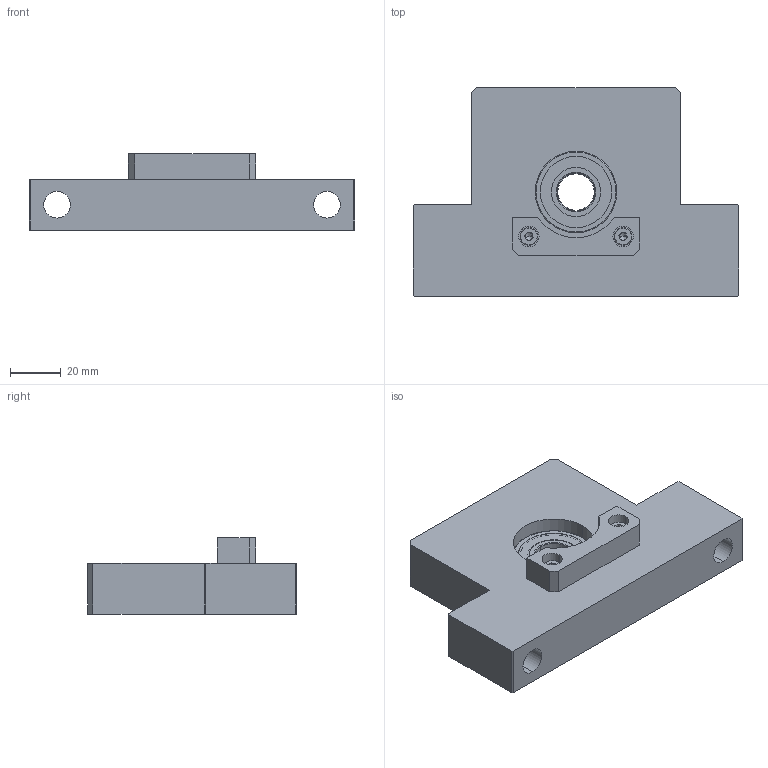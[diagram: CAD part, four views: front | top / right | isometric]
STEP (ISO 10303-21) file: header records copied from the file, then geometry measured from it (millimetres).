
FILE_DESCRIPTION (( 'STEP AP214' ), '1' );
FILE_NAME ('F-SBU-15.80-D.STEP', '2023-04-10T09:19:59', ( '' ), ( '' ), 'SwSTEP 2.0', 'SolidWorks 2021', '' );
FILE_SCHEMA (( 'AUTOMOTIVE_DESIGN' ));
Length unit declared in the file: millimetre
Products named in the file (11): 6002ZZ Inner ring; F-SBU-15.80-D BODY; 6002ZZ; 6002ZZ Ball; DAMPER; 4-10; 6002ZZ Shield1; F-SBU-15.80-D; 6002ZZ Shield2; 6002ZZ Outer ring; STWN15
Assembly tree (23 placements, depth 3):
  F-SBU-15.80-D
    F-SBU-15.80-D BODY
    STWN15
    6002ZZ
      6002ZZ Shield2
      6002ZZ Ball  x13
      6002ZZ Inner ring
      6002ZZ Shield1
      6002ZZ Outer ring
    DAMPER
    4-10  x2
Bounding box: 128 x 82 x 30 mm (x, y, z)
Volume: 154620.4 mm3; surface area: 37167.5 mm2
Topology: 22 solids, 22 shells, 207 faces, 502 edges, 317 vertices
Faces by surface type: plane 77, cylinder 66, sphere 26, cone 20, torus 18
Entity records: 4997 total; most frequent: DIRECTION 883, CARTESIAN_POINT 753, ORIENTED_EDGE 698, AXIS2_PLACEMENT_3D 351, EDGE_CURVE 349, VERTEX_POINT 221, EDGE_LOOP 188, VECTOR 181
